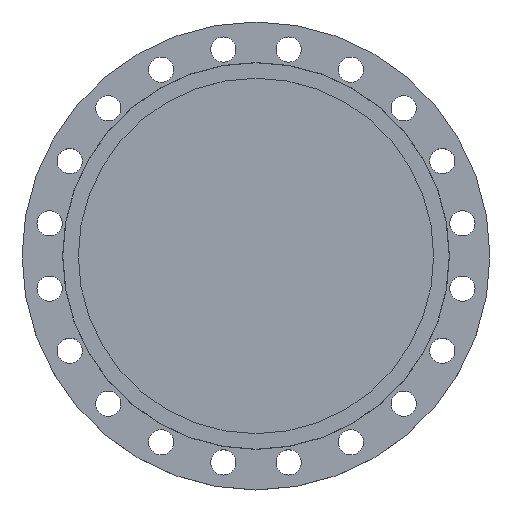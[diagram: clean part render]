
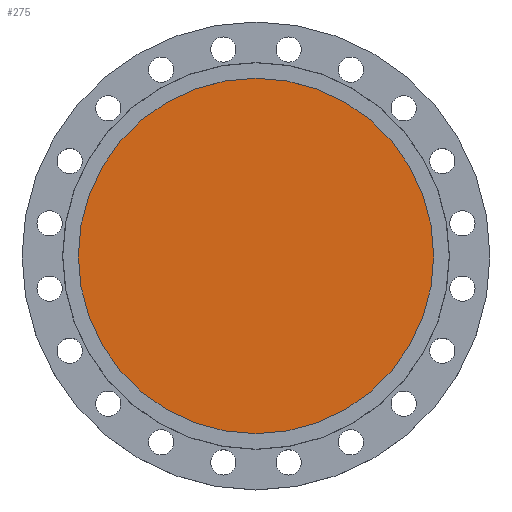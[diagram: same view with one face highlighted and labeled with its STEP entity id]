
A CAD part, top view. The second image highlights one B-rep face of the part: STEP entity #275.
In plain terms, the highlighted planar face has unit normal (0, 0, 1).
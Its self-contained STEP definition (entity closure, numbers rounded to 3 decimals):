
#27 = ORIENTED_EDGE ( 'NONE', *, *, #29, .F. ) ;
#29 = EDGE_CURVE ( 'NONE', #760, #1348, #1988, .T. ) ;
#30 = ORIENTED_EDGE ( 'NONE', *, *, #833, .F. ) ;
#83 = AXIS2_PLACEMENT_3D ( 'NONE', #1606, #1605, #1604 ) ;
#119 = CIRCLE ( 'NONE', #83, 338. ) ;
#275 = ADVANCED_FACE ( 'NONE', ( #573 ), #572, .T. ) ;
#292 = AXIS2_PLACEMENT_3D ( 'NONE', #571, #568, #558 ) ;
#388 = EDGE_LOOP ( 'NONE', ( #30, #27 ) ) ;
#463 = AXIS2_PLACEMENT_3D ( 'NONE', #1191, #1186, #1185 ) ;
#558 = DIRECTION ( 'NONE',  ( 1., 0., 0. ) ) ;
#568 = DIRECTION ( 'NONE',  ( 0., 0., 1. ) ) ;
#571 = CARTESIAN_POINT ( 'NONE',  ( 338., 0., -5. ) ) ;
#572 = PLANE ( 'NONE',  #292 ) ;
#573 = FACE_OUTER_BOUND ( 'NONE', #388, .T. ) ;
#760 = VERTEX_POINT ( 'NONE', #1640 ) ;
#833 = EDGE_CURVE ( 'NONE', #1348, #760, #119, .T. ) ;
#1185 = DIRECTION ( 'NONE',  ( -1., 0., 0. ) ) ;
#1186 = DIRECTION ( 'NONE',  ( 0., 0., -1. ) ) ;
#1191 = CARTESIAN_POINT ( 'NONE',  ( 0., 0., -5. ) ) ;
#1335 = CARTESIAN_POINT ( 'NONE',  ( -338., 0., -5. ) ) ;
#1348 = VERTEX_POINT ( 'NONE', #1335 ) ;
#1604 = DIRECTION ( 'NONE',  ( -1., 0., 0. ) ) ;
#1605 = DIRECTION ( 'NONE',  ( 0., 0., -1. ) ) ;
#1606 = CARTESIAN_POINT ( 'NONE',  ( 0., 0., -5. ) ) ;
#1640 = CARTESIAN_POINT ( 'NONE',  ( 338., 0., -5. ) ) ;
#1988 = CIRCLE ( 'NONE', #463, 338. ) ;
